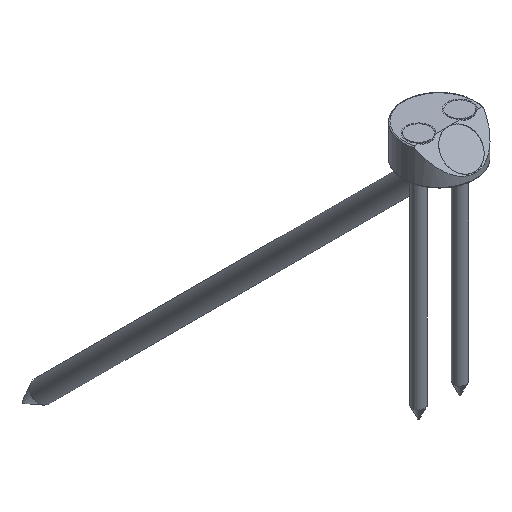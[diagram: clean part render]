
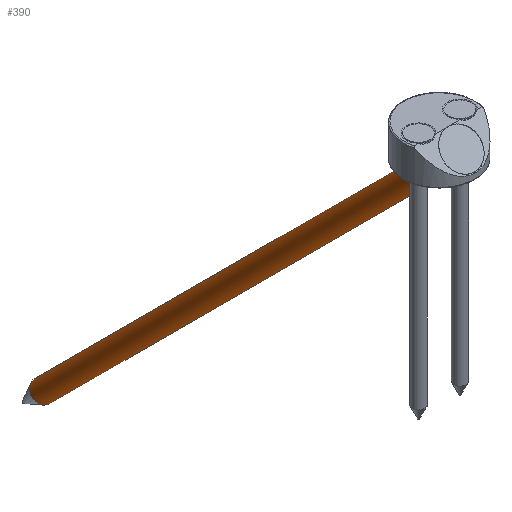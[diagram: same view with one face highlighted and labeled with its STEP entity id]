
A CAD part, isometric view. The second image highlights one B-rep face of the part: STEP entity #390.
In plain terms, the highlighted cylindrical face has radius 5 mm (diameter 10 mm), a full revolution.
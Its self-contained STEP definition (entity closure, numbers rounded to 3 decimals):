
#59=CYLINDRICAL_SURFACE('',#480,5.);
#91=CIRCLE('',#479,5.);
#92=CIRCLE('',#481,5.);
#165=ORIENTED_EDGE('',*,*,#206,.T.);
#166=ORIENTED_EDGE('',*,*,#205,.F.);
#205=EDGE_CURVE('',#238,#238,#91,.T.);
#206=EDGE_CURVE('',#239,#239,#92,.T.);
#238=VERTEX_POINT('',#733);
#239=VERTEX_POINT('',#736);
#297=EDGE_LOOP('',(#165));
#298=EDGE_LOOP('',(#166));
#350=FACE_BOUND('',#297,.T.);
#351=FACE_BOUND('',#298,.T.);
#390=ADVANCED_FACE('',(#350,#351),#59,.T.);
#479=AXIS2_PLACEMENT_3D('',#732,#602,#603);
#480=AXIS2_PLACEMENT_3D('',#734,#604,#605);
#481=AXIS2_PLACEMENT_3D('',#735,#606,#607);
#602=DIRECTION('',(0.,1.,0.));
#603=DIRECTION('',(0.,0.,1.));
#604=DIRECTION('',(0.,1.,0.));
#605=DIRECTION('',(0.,0.,1.));
#606=DIRECTION('',(0.,1.,0.));
#607=DIRECTION('',(0.,0.,1.));
#732=CARTESIAN_POINT('',(0.,42.,0.));
#733=CARTESIAN_POINT('',(0.,42.,5.));
#734=CARTESIAN_POINT('',(0.,54.,0.));
#735=CARTESIAN_POINT('',(0.,-233.,0.));
#736=CARTESIAN_POINT('',(0.,-233.,5.));
